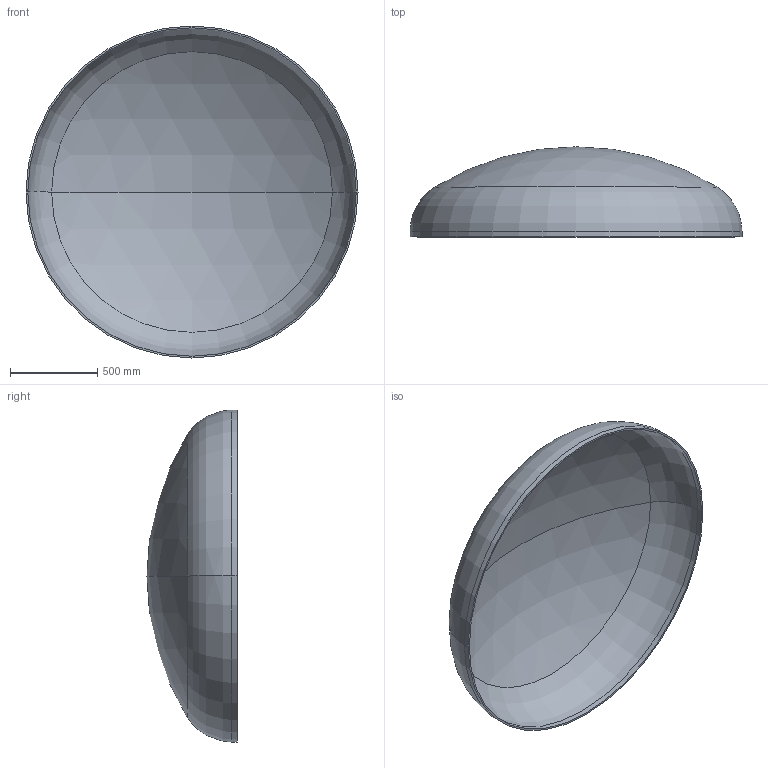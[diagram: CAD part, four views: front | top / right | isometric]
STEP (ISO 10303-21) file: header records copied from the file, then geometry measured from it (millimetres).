
FILE_DESCRIPTION (( 'STEP AP203' ), '1' );
FILE_NAME ('DIN 28013 Korbbogenform_-_Boden DIN 28013 - 1900 x 30 - I - s=10.step', '2016-07-01T12:54:09', ( '' ), ( '' ), 'SwSTEP 2.0', 'SolidWorks 2013', '' );
FILE_SCHEMA (( 'CONFIG_CONTROL_DESIGN' ));
Length unit declared in the file: millimetre
Products named in the file (1): DIN 28013 Korbbogenform_-_Boden DIN 28013 - 1900 x 30 - I - s=10
Bounding box: 1900 x 515.78 x 1900 mm (x, y, z)
Volume: 40711033.6 mm3; surface area: 8201789 mm2
Topology: 1 solids, 1 shells, 13 faces, 24 edges, 14 vertices
Faces by surface type: torus 4, cylinder 4, sphere 4, plane 1
Entity records: 407 total; most frequent: DIRECTION 72, CARTESIAN_POINT 52, ORIENTED_EDGE 48, AXIS2_PLACEMENT_3D 34, EDGE_CURVE 24, CIRCLE 20, VERTEX_POINT 14, EDGE_LOOP 14
